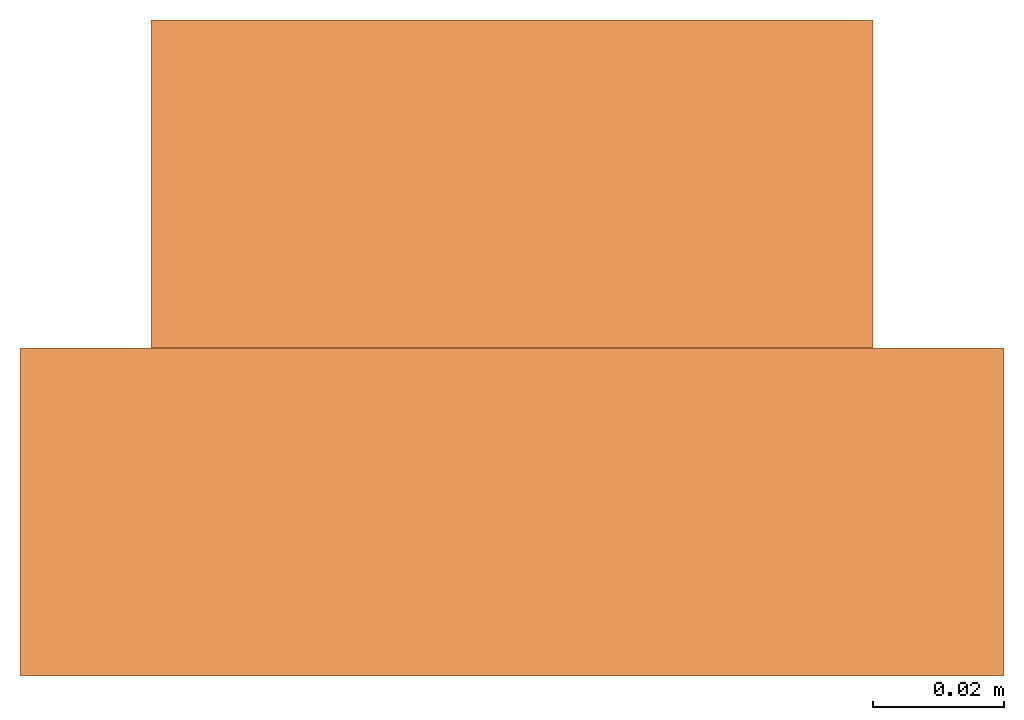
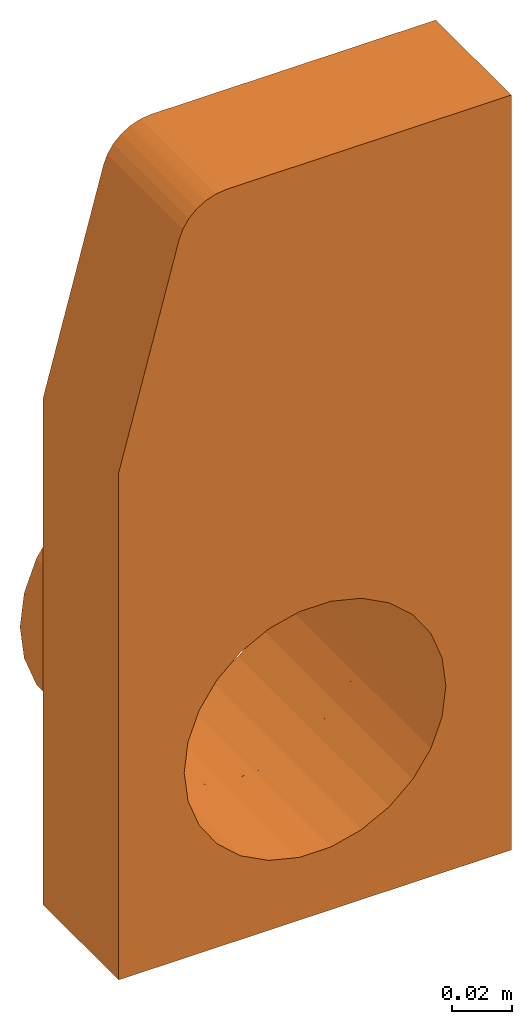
# One storey: 1 proxy.
"""IFC2X3 building model written with IfcOpenShell, lengths in millimetres."""

from ifc_helpers import new_model, entity, si_unit, converted_unit, direction, frame, frame_2d, origin, origin_2d_with_axis, place, context, subcontext, project, spatial, polyline, circle_curve, parameter, trimmed, segment, composite_curve, outline, extrude, source, transform, mapped, material, material_list, element, save


model = new_model("IFC2X3")

# Units and contexts
model_context = context("Model", 3, precision=1e-06, world=origin(), true_north=direction((2.0, 6.12303176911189e-17, 1.0)))
context_of_model = context(None, 3, precision=1e-06, world=origin(), true_north=direction((2.0, 6.12303176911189e-17, 1.0)))
body_context = subcontext(model_context, "Body", "Model", "MODEL_VIEW")
ifc_project = project(units=[si_unit("LENGTHUNIT", "METRE", prefix="MILLI"), si_unit("AREAUNIT", "SQUARE_METRE", prefix="MILLI"), si_unit("VOLUMEUNIT", "CUBIC_METRE", prefix="MILLI"), converted_unit("PLANEANGLEUNIT", "DEGREE", entity("IfcRatioMeasure", 0.0174532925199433), si_unit("PLANEANGLEUNIT", "RADIAN"), dimensions=[0, 0, 0, 0, 0, 0, 0]), si_unit("TIMEUNIT", "SECOND")], contexts=[model_context, context_of_model])

# Site, building, storey
site_placement = place(None, origin())
site = spatial("IfcSite", under=ifc_project, at=site_placement, Name="Default", CompositionType="ELEMENT")
building_placement = place(site_placement, origin())
building = spatial("IfcBuilding", under=site, at=building_placement, CompositionType="ELEMENT")
storey_placement = place(building_placement, frame((0.0, 0.0, -300.0)))
storey = spatial("IfcBuildingStorey", under=building, at=storey_placement, Name="T.O. Fnd. Wall", CompositionType="ELEMENT", Elevation=-300.0)

# Proxy
ifc_material_1 = material(Name="ACO Polymer Concrete.")
ifc_material_2 = material(Name="Orange")
ifc_material_list = material_list([ifc_material_1, ifc_material_2])
shared_shape = source(origin(), body_context, "Body", "SweptSolid", [
    extrude(outline(composite_curve([segment(polyline([(-184.321116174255, -60.7328841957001), (20.6788838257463, -60.7328841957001)]), True, "CONTINUOUS"), segment(polyline([(20.6788838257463, -60.7328841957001), (106.599490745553, -37.7105269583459)]), True, "CONTINUOUS"), segment(trimmed(circle_curve(frame_2d((101.681928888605, -19.3579362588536), x_axis=(0.0, -1.0)), 19.0), [parameter(14.9999999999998)], [parameter(89.9999999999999)], True, "PARAMETER"), True, "CONTINUOUS"), segment(polyline([(120.681928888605, -19.3579362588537), (120.681928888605, 89.2671158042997)]), True, "CONTINUOUS"), segment(polyline([(120.681928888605, 89.2671158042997), (-184.321116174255, 89.2671158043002)]), True, "CONTINUOUS"), segment(polyline([(-184.321116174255, 89.2671158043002), (-184.321116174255, -60.7328841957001)]), True, "CONTINUOUS")], self_intersect=False), holes=[composite_curve([segment(trimmed(circle_curve(frame_2d((-109.321116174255, 14.2671158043), x_axis=(0.0, -1.0)), 49.9999999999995), [parameter(180.0)], [parameter(360.0)], True, "PARAMETER"), False, "CONTINUOUS"), segment(trimmed(circle_curve(frame_2d((-109.321116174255, 14.2671158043), x_axis=(0.0, -1.0)), 49.9999999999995), [parameter(360.0)], [parameter(180.0)], True, "PARAMETER"), False, "CONTINUOUS")], self_intersect=False)]), frame((-14.2671158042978, 0.0, 4.31807111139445), z_axis=(0.0, 1.0, 0.0), x_axis=(0.0, 0.0, 1.0)), (0.0, 0.0, 1.0), 50.0),
    extrude(outline(composite_curve([segment(trimmed(circle_curve(origin_2d_with_axis(), 54.9999999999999), [parameter(0.0)], [parameter(180.0)], True, "PARAMETER"), True, "CONTINUOUS"), segment(trimmed(circle_curve(origin_2d_with_axis(), 54.9999999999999), [parameter(180.0)], [parameter(360.0)], True, "PARAMETER"), True, "CONTINUOUS")], self_intersect=False), holes=[composite_curve([segment(trimmed(circle_curve(origin_2d_with_axis(), 49.9999999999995), [parameter(180.000000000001)], [parameter(4.07110999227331e-13)], True, "PARAMETER"), False, "CONTINUOUS"), segment(trimmed(circle_curve(origin_2d_with_axis(), 49.9999999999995), [parameter(4.57999874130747e-13)], [parameter(179.999999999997)], True, "PARAMETER"), False, "CONTINUOUS")], self_intersect=False)]), frame((0.0, 50.0, -105.0), z_axis=(0.0, 1.0, 0.0), x_axis=(-1.0, 0.0, 0.0)), (0.0, 0.0, 1.0), 50.0),
])
proxy_placement = place(storey_placement, frame((-4264.21056397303, -6896.5502196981, 300.0)))
element("IfcBuildingElementProxy", 1, at=proxy_placement, inside=storey, material=ifc_material_list, Name="Civil-Drainage-Channel-ACO-KerbDrain-HB305 - PART 1:7963 - RH inlet/outlet end cap:7963 - RH inlet/outlet end cap", ObjectType="7963 - RH inlet/outlet end cap", CompositionType="ELEMENT", context=body_context, shape_type="MappedRepresentation", body=[
    mapped(shared_shape, transform((0.0, 0.0, 0.0), scale=1.0)),
])

save(model, "model.ifc")
